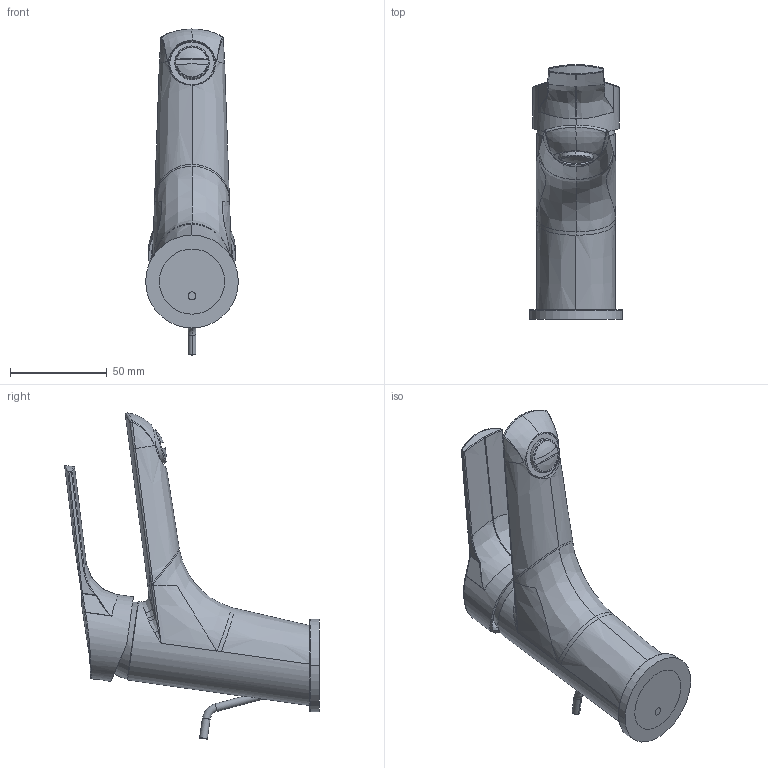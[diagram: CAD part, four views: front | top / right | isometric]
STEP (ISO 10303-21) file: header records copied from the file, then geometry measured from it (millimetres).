
FILE_DESCRIPTION((''),'2;1');
FILE_NAME('F3761_FILE_3D','2013-10-01T',('ivanv'),(''),'PRO/ENGINEER BY PARAMETRIC TECHNOLOGY CORPORATION, 2012130','PRO/ENGINEER BY PARAMETRIC TECHNOLOGY CORPORATION, 2012130','');
FILE_SCHEMA(('CONFIG_CONTROL_DESIGN'));
Products named in the file (1): F3761_FILE_3D
Bounding box: 48 x 131.83 x 168.83 mm (x, y, z)
Volume: 112711.9 mm3; surface area: 71526.8 mm2
Topology: 2 solids, 8 shells, 832 faces, 2146 edges, 1350 vertices
Faces by surface type: plane 389, bspline 194, cylinder 115, torus 44, cone 43, extrusion 26, sphere 21
Entity records: 39479 total; most frequent: CARTESIAN_POINT 20798, ORIENTED_EDGE 4276, DIRECTION 3213, EDGE_CURVE 2138, VERTEX_POINT 1350, VECTOR 1149, LINE 1123, AXIS2_PLACEMENT_3D 1032
